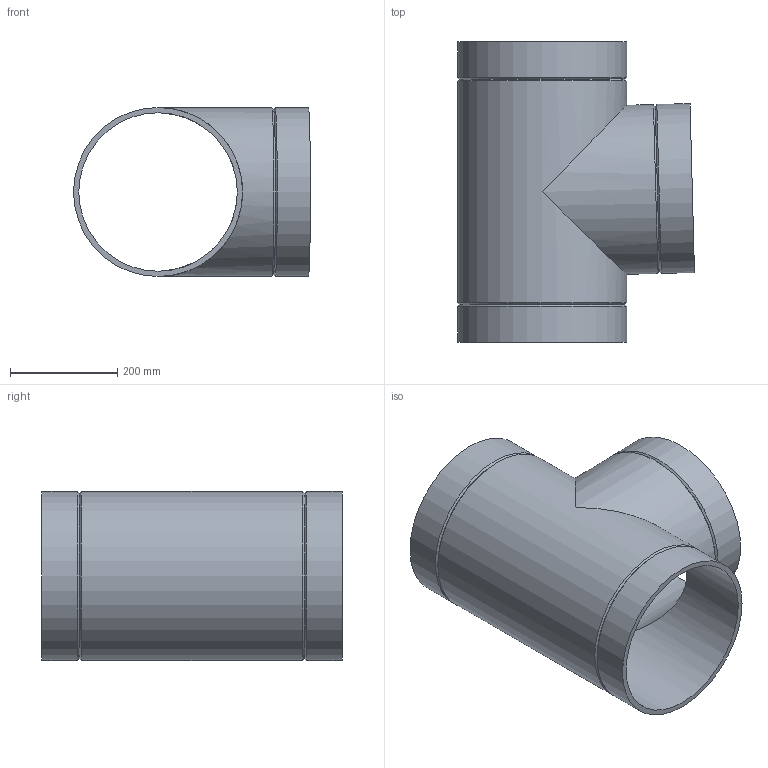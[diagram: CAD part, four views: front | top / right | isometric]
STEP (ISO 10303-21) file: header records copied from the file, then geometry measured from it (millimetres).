
FILE_DESCRIPTION(/* description */ (''),/* implementation_level */ '2;1');
FILE_NAME(/* name */ 'Z:\Geberit\Export\NewStep\372198.stp',/* time_stamp */ '2014-04-02T08:06:47+02:00',/* author */ ('nelson'),/* organization */ (''),/* preprocessor_version */ 'ST-DEVELOPER v15.2',/* originating_system */ 'Autodesk Inventor 2014',/* authorisation */ '');
FILE_SCHEMA (('AUTOMOTIVE_DESIGN { 1 0 10303 214 3 1 1 }'));
Length unit declared in the file: millimetre
Products named in the file (1): 372198
Bounding box: 441.53 x 560 x 315 mm (x, y, z)
Volume: 6036756.3 mm3; surface area: 1273379.5 mm2
Topology: 1 solids, 1 shells, 16 faces, 39 edges, 25 vertices
Faces by surface type: cylinder 7, cone 6, plane 3
Full cylindrical faces by diameter (mm): 295.4 x2, 315 x5
Entity records: 399 total; most frequent: DIRECTION 72, CARTESIAN_POINT 55, ORIENTED_EDGE 38, AXIS2_PLACEMENT_3D 36, EDGE_LOOP 34, FACE_BOUND 22, VERTEX_POINT 19, EDGE_CURVE 19
